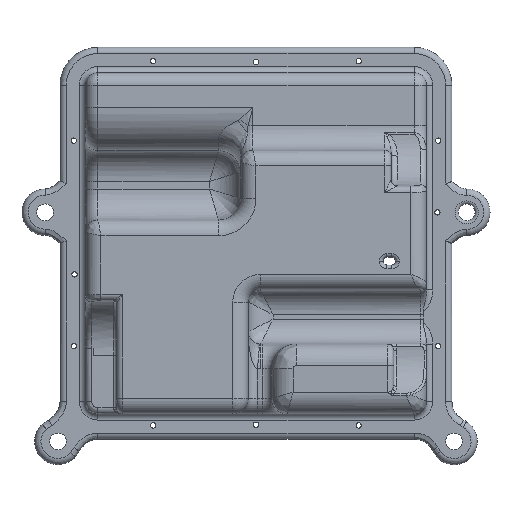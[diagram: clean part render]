
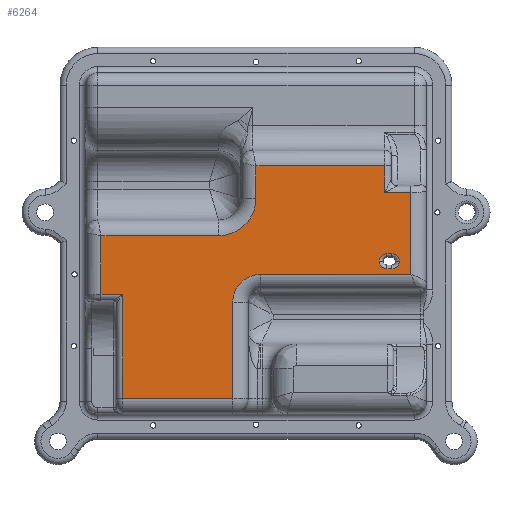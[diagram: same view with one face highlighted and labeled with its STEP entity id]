
A CAD part, left-side view. The second image highlights one B-rep face of the part: STEP entity #6264.
In plain terms, the highlighted planar face has unit normal (-1, 0, 0).
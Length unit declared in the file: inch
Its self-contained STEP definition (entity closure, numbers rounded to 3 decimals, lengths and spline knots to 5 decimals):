
#182=FACE_BOUND('',#1801,.T.);
#445=PLANE('',#6730);
#532=LINE('',#9279,#876);
#533=LINE('',#9288,#877);
#535=LINE('',#9300,#879);
#537=LINE('',#9310,#881);
#540=LINE('',#9320,#884);
#541=LINE('',#9322,#885);
#542=LINE('',#9324,#886);
#543=LINE('',#9326,#887);
#544=LINE('',#9328,#888);
#545=LINE('',#9332,#889);
#546=LINE('',#9334,#890);
#547=LINE('',#9336,#891);
#548=LINE('',#9338,#892);
#549=LINE('',#9340,#893);
#550=LINE('',#9342,#894);
#551=LINE('',#9345,#895);
#876=VECTOR('',#7492,0.3937);
#877=VECTOR('',#7503,0.3937);
#879=VECTOR('',#7517,0.3937);
#881=VECTOR('',#7531,0.3937);
#884=VECTOR('',#7544,0.3937);
#885=VECTOR('',#7545,0.3937);
#886=VECTOR('',#7546,0.3937);
#887=VECTOR('',#7547,0.3937);
#888=VECTOR('',#7548,0.3937);
#889=VECTOR('',#7551,0.3937);
#890=VECTOR('',#7552,0.3937);
#891=VECTOR('',#7553,0.3937);
#892=VECTOR('',#7554,0.3937);
#893=VECTOR('',#7555,0.3937);
#894=VECTOR('',#7556,0.3937);
#895=VECTOR('',#7559,0.3937);
#1381=FACE_OUTER_BOUND('',#1800,.T.);
#1800=EDGE_LOOP('',(#4300,#4301,#4302,#4303,#4304,#4305,#4306,#4307,#4308,
#4309,#4310,#4311,#4312,#4313));
#1801=EDGE_LOOP('',(#4314,#4315,#4316,#4317,#4318,#4319,#4320,#4321));
#2253=CIRCLE('',#6711,0.12);
#2256=CIRCLE('',#6716,0.12);
#2260=CIRCLE('',#6722,0.12);
#2263=CIRCLE('',#6727,0.12);
#2264=CIRCLE('',#6731,0.45);
#2265=CIRCLE('',#6732,0.6);
#2651=VERTEX_POINT('',#9275);
#2652=VERTEX_POINT('',#9277);
#2653=VERTEX_POINT('',#9281);
#2655=VERTEX_POINT('',#9286);
#2657=VERTEX_POINT('',#9292);
#2659=VERTEX_POINT('',#9298);
#2660=VERTEX_POINT('',#9303);
#2661=VERTEX_POINT('',#9308);
#2662=VERTEX_POINT('',#9318);
#2663=VERTEX_POINT('',#9319);
#2664=VERTEX_POINT('',#9321);
#2665=VERTEX_POINT('',#9323);
#2666=VERTEX_POINT('',#9325);
#2667=VERTEX_POINT('',#9327);
#2668=VERTEX_POINT('',#9329);
#2669=VERTEX_POINT('',#9331);
#2670=VERTEX_POINT('',#9333);
#2671=VERTEX_POINT('',#9335);
#2672=VERTEX_POINT('',#9337);
#2673=VERTEX_POINT('',#9339);
#2674=VERTEX_POINT('',#9341);
#2675=VERTEX_POINT('',#9343);
#3245=EDGE_CURVE('',#2652,#2651,#532,.T.);
#3247=EDGE_CURVE('',#2653,#2652,#2253,.T.);
#3249=EDGE_CURVE('',#2655,#2653,#533,.T.);
#3252=EDGE_CURVE('',#2657,#2655,#2256,.T.);
#3255=EDGE_CURVE('',#2659,#2657,#535,.T.);
#3258=EDGE_CURVE('',#2660,#2659,#2260,.T.);
#3261=EDGE_CURVE('',#2661,#2660,#537,.T.);
#3262=EDGE_CURVE('',#2651,#2661,#2263,.T.);
#3265=EDGE_CURVE('',#2662,#2663,#540,.T.);
#3266=EDGE_CURVE('',#2664,#2662,#541,.T.);
#3267=EDGE_CURVE('',#2665,#2664,#542,.T.);
#3268=EDGE_CURVE('',#2666,#2665,#543,.T.);
#3269=EDGE_CURVE('',#2667,#2666,#544,.T.);
#3270=EDGE_CURVE('',#2668,#2667,#2264,.T.);
#3271=EDGE_CURVE('',#2669,#2668,#545,.T.);
#3272=EDGE_CURVE('',#2670,#2669,#546,.T.);
#3273=EDGE_CURVE('',#2671,#2670,#547,.T.);
#3274=EDGE_CURVE('',#2672,#2671,#548,.T.);
#3275=EDGE_CURVE('',#2673,#2672,#549,.T.);
#3276=EDGE_CURVE('',#2674,#2673,#550,.T.);
#3277=EDGE_CURVE('',#2675,#2674,#2265,.T.);
#3278=EDGE_CURVE('',#2663,#2675,#551,.T.);
#4300=ORIENTED_EDGE('',*,*,#3265,.F.);
#4301=ORIENTED_EDGE('',*,*,#3266,.F.);
#4302=ORIENTED_EDGE('',*,*,#3267,.F.);
#4303=ORIENTED_EDGE('',*,*,#3268,.F.);
#4304=ORIENTED_EDGE('',*,*,#3269,.F.);
#4305=ORIENTED_EDGE('',*,*,#3270,.F.);
#4306=ORIENTED_EDGE('',*,*,#3271,.F.);
#4307=ORIENTED_EDGE('',*,*,#3272,.F.);
#4308=ORIENTED_EDGE('',*,*,#3273,.F.);
#4309=ORIENTED_EDGE('',*,*,#3274,.F.);
#4310=ORIENTED_EDGE('',*,*,#3275,.F.);
#4311=ORIENTED_EDGE('',*,*,#3276,.F.);
#4312=ORIENTED_EDGE('',*,*,#3277,.F.);
#4313=ORIENTED_EDGE('',*,*,#3278,.F.);
#4314=ORIENTED_EDGE('',*,*,#3245,.F.);
#4315=ORIENTED_EDGE('',*,*,#3247,.F.);
#4316=ORIENTED_EDGE('',*,*,#3249,.F.);
#4317=ORIENTED_EDGE('',*,*,#3252,.F.);
#4318=ORIENTED_EDGE('',*,*,#3255,.F.);
#4319=ORIENTED_EDGE('',*,*,#3258,.F.);
#4320=ORIENTED_EDGE('',*,*,#3261,.F.);
#4321=ORIENTED_EDGE('',*,*,#3262,.F.);
#6264=ADVANCED_FACE('',(#1381,#182),#445,.T.);
#6711=AXIS2_PLACEMENT_3D('',#9283,#7497,#7498);
#6716=AXIS2_PLACEMENT_3D('',#9294,#7509,#7510);
#6722=AXIS2_PLACEMENT_3D('',#9305,#7523,#7524);
#6727=AXIS2_PLACEMENT_3D('',#9312,#7534,#7535);
#6730=AXIS2_PLACEMENT_3D('',#9317,#7542,#7543);
#6731=AXIS2_PLACEMENT_3D('',#9330,#7549,#7550);
#6732=AXIS2_PLACEMENT_3D('',#9344,#7557,#7558);
#7492=DIRECTION('',(0.,0.,-1.));
#7497=DIRECTION('center_axis',(-1.,0.,0.));
#7498=DIRECTION('ref_axis',(0.,0.707,0.707));
#7503=DIRECTION('',(0.,1.,0.));
#7509=DIRECTION('center_axis',(-1.,0.,0.));
#7510=DIRECTION('ref_axis',(0.,-0.707,0.707));
#7517=DIRECTION('',(0.,0.,1.));
#7523=DIRECTION('center_axis',(-1.,0.,0.));
#7524=DIRECTION('ref_axis',(0.,-0.707,-0.707));
#7531=DIRECTION('',(0.,-1.,0.));
#7534=DIRECTION('center_axis',(-1.,0.,0.));
#7535=DIRECTION('ref_axis',(0.,0.707,-0.707));
#7542=DIRECTION('center_axis',(-1.,0.,0.));
#7543=DIRECTION('ref_axis',(0.,0.,1.));
#7544=DIRECTION('',(0.,0.,1.));
#7545=DIRECTION('',(0.,1.,0.));
#7546=DIRECTION('',(0.,0.,1.));
#7547=DIRECTION('',(0.,1.,0.));
#7548=DIRECTION('',(0.,0.,-1.));
#7549=DIRECTION('center_axis',(-1.,0.,0.));
#7550=DIRECTION('ref_axis',(0.,0.707,0.707));
#7551=DIRECTION('',(0.,1.,0.));
#7552=DIRECTION('',(0.,0.,-1.));
#7553=DIRECTION('',(0.,-1.,0.));
#7554=DIRECTION('',(0.,0.,-1.));
#7555=DIRECTION('',(0.,-1.,0.));
#7556=DIRECTION('',(0.,0.,1.));
#7557=DIRECTION('center_axis',(-1.,0.,0.));
#7558=DIRECTION('ref_axis',(0.,-0.707,-0.707));
#7559=DIRECTION('',(0.,-1.,0.));
#9275=CARTESIAN_POINT('',(3.975,-1.99,-0.29));
#9277=CARTESIAN_POINT('',(3.975,-1.99,-0.285));
#9279=CARTESIAN_POINT('',(3.975,-1.99,-0.4575));
#9281=CARTESIAN_POINT('',(3.975,-2.11,-0.165));
#9283=CARTESIAN_POINT('Origin',(3.975,-2.11,-0.285));
#9286=CARTESIAN_POINT('',(3.975,-2.19,-0.165));
#9288=CARTESIAN_POINT('',(3.975,-1.055,-0.165));
#9292=CARTESIAN_POINT('',(3.975,-2.31,-0.285));
#9294=CARTESIAN_POINT('Origin',(3.975,-2.19,-0.285));
#9298=CARTESIAN_POINT('',(3.975,-2.31,-0.29));
#9300=CARTESIAN_POINT('',(3.975,-2.31,-0.455));
#9303=CARTESIAN_POINT('',(3.975,-2.19,-0.41));
#9305=CARTESIAN_POINT('Origin',(3.975,-2.19,-0.29));
#9308=CARTESIAN_POINT('',(3.975,-2.11,-0.41));
#9310=CARTESIAN_POINT('',(3.975,-1.095,-0.41));
#9312=CARTESIAN_POINT('Origin',(3.975,-2.11,-0.29));
#9317=CARTESIAN_POINT('Origin',(3.975,0.,-0.625));
#9318=CARTESIAN_POINT('',(3.975,2.5,-0.82429));
#9319=CARTESIAN_POINT('',(3.975,2.5,0.125));
#9320=CARTESIAN_POINT('',(3.975,2.5,1.0625));
#9321=CARTESIAN_POINT('',(3.975,2.15,-0.82429));
#9322=CARTESIAN_POINT('',(3.975,2.75,-0.82429));
#9323=CARTESIAN_POINT('',(3.975,2.15,-2.5));
#9324=CARTESIAN_POINT('',(3.975,2.15,-1.24282));
#9325=CARTESIAN_POINT('',(3.975,0.375,-2.5));
#9326=CARTESIAN_POINT('',(3.975,1.375,-2.5));
#9327=CARTESIAN_POINT('',(3.975,0.375,-0.95));
#9328=CARTESIAN_POINT('',(3.975,0.375,-1.6875));
#9329=CARTESIAN_POINT('',(3.975,-0.075,-0.5));
#9330=CARTESIAN_POINT('Origin',(3.975,-0.075,-0.95));
#9331=CARTESIAN_POINT('',(3.975,-2.5,-0.5));
#9332=CARTESIAN_POINT('',(3.975,0.0625,-0.5));
#9333=CARTESIAN_POINT('',(3.975,-2.5,0.82429));
#9334=CARTESIAN_POINT('',(3.975,-2.5,-1.6875));
#9335=CARTESIAN_POINT('',(3.975,-2.08,0.82429));
#9336=CARTESIAN_POINT('',(3.975,-2.65,0.82429));
#9337=CARTESIAN_POINT('',(3.975,-2.08,1.25));
#9338=CARTESIAN_POINT('',(3.975,-2.08,0.5625));
#9339=CARTESIAN_POINT('',(3.975,0.,1.25));
#9340=CARTESIAN_POINT('',(3.975,-1.375,1.25));
#9341=CARTESIAN_POINT('',(3.975,0.,0.725));
#9342=CARTESIAN_POINT('',(3.975,0.,-0.3625));
#9343=CARTESIAN_POINT('',(3.975,0.6,0.125));
#9344=CARTESIAN_POINT('Origin',(3.975,0.6,0.725));
#9345=CARTESIAN_POINT('',(3.975,0.125,0.125));
